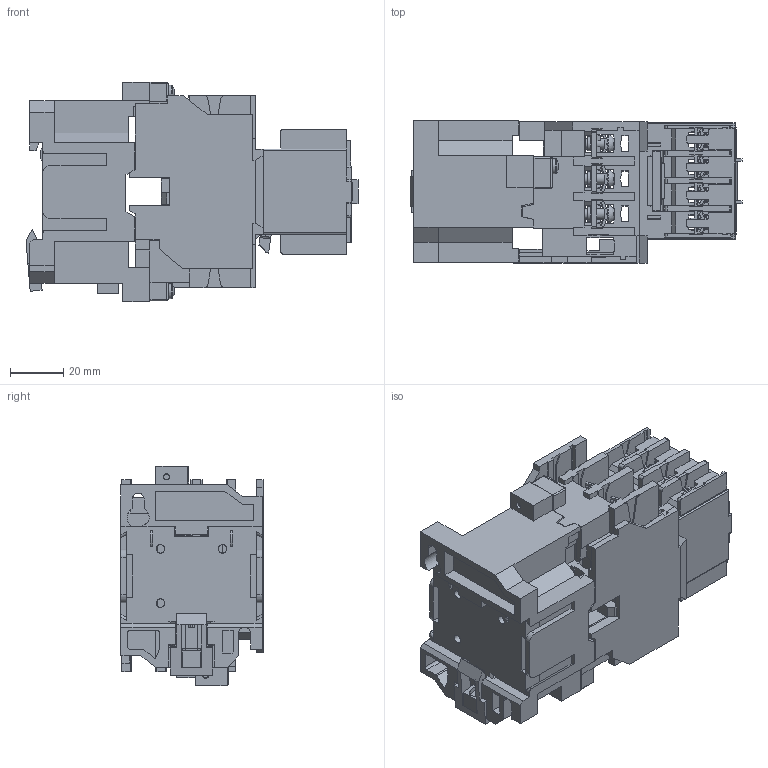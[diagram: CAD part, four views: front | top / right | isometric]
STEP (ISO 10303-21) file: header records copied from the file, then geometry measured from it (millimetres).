
FILE_DESCRIPTION(('STEP AP214'), '1');
FILE_NAME('Êîíòàêòîð ÏÌ12-025 è ÏÊË-22 (çàêàç÷èêàì)', '2022-06-17T06:01:03', (''), (''), 'ASCON STEP Converter 1.6', 'ASCON Math Kernel', '');
FILE_SCHEMA(('AUTOMOTIVE_DESIGN { 1 0 10303 214 3 1 1}'));
Length unit declared in the file: millimetre
Bounding box: 124.6 x 53.37 x 82.5 mm (x, y, z)
Volume: 121348.1 mm3; surface area: 95707.4 mm2
Topology: 1 solids, 4 shells, 7270 faces, 20805 edges, 13486 vertices
Faces by surface type: plane 5371, cylinder 1490, torus 220, cone 110, bspline 60, sphere 19
Full cylindrical faces by diameter (mm): 2 x8, 2.4 x2, 2.9 x2, 3 x18, 3.2 x11, 3.3 x3, 3.6 x1, 3.8 x2, 4 x10, 4.2 x6, 5.3 x5, 5.5 x16, 5.6 x2, 7 x5
Entity records: 300290 total; most frequent: CARTESIAN_POINT 50393, ORIENTED_EDGE 41352, DIRECTION 38485, EDGE_CURVE 20676, LINE 16201, VECTOR 16201, VERTEX_POINT 13487, AXIS2_PLACEMENT_3D 11142
